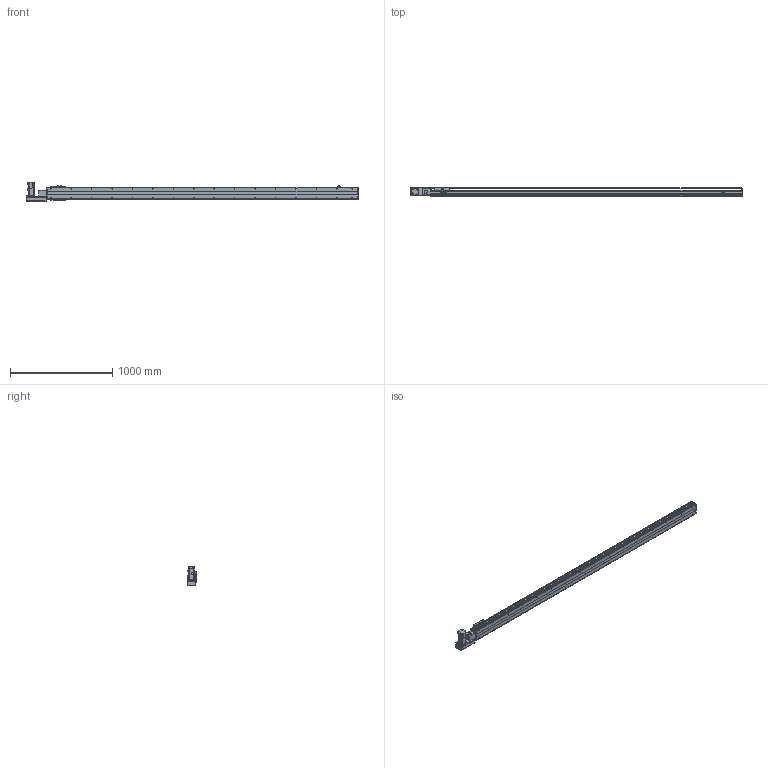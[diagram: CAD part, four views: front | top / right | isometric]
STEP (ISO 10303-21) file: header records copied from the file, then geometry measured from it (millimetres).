
FILE_DESCRIPTION(/* description */ ('STEP AP214'),/* implementation_level */ '2;1');
FILE_NAME(/* name */ 'PBS120-P40-S2750-L-T40-C1-N(0)',/* time_stamp */ '2022-06-05T02:30:07+02:00',/* author */ ('License CC BY-ND 4.0'),/* organization */ ('CADENAS'),/* preprocessor_version */ 'ST-DEVELOPER v18.102',/* originating_system */ 'PARTsolutions',/* authorisation */ ' ');
FILE_SCHEMA (('AUTOMOTIVE_DESIGN {1 0 10303 214 3 1 1}'));
Length unit declared in the file: millimetre
Products named in the file (7): PBS120-P40-S2750-L-T40-C1-N(0); PBS120_sensor; PBS120_plant; PBS120_sliser; T40-p1; PBS120T-L_motors; PBS120-S2750()_body
Assembly tree (8 placements, depth 2):
  PBS120-P40-S2750-L-T40-C1-N(0)
    PBS120_sensor  x3
    PBS120_plant
    PBS120_sliser
    T40-p1
    PBS120T-L_motors
    PBS120-S2750()_body
Bounding box: 3251 x 83 x 189.7 mm (x, y, z)
Volume: 11657461.3 mm3; surface area: 2420523.8 mm2
Topology: 8 solids, 8 shells, 876 faces, 2236 edges, 1435 vertices
Faces by surface type: plane 565, cylinder 245, cone 64, torus 2
Full cylindrical faces by diameter (mm): 2.459 x6, 3.242 x4, 4 x2, 4.134 x4, 4.5 x10, 4.917 x36, 5.5 x11, 6 x2, 6.6 x1, 7 x2, 8.5 x4, 9 x4, 12 x1, 14 x1, 30 x2, 40 x1, 50 x2
Entity records: 22554 total; most frequent: DIRECTION 3932, CARTESIAN_POINT 3821, ORIENTED_EDGE 3598, EDGE_CURVE 1799, AXIS2_PLACEMENT_3D 1352, VERTEX_POINT 1241, LINE 1228, VECTOR 1228
